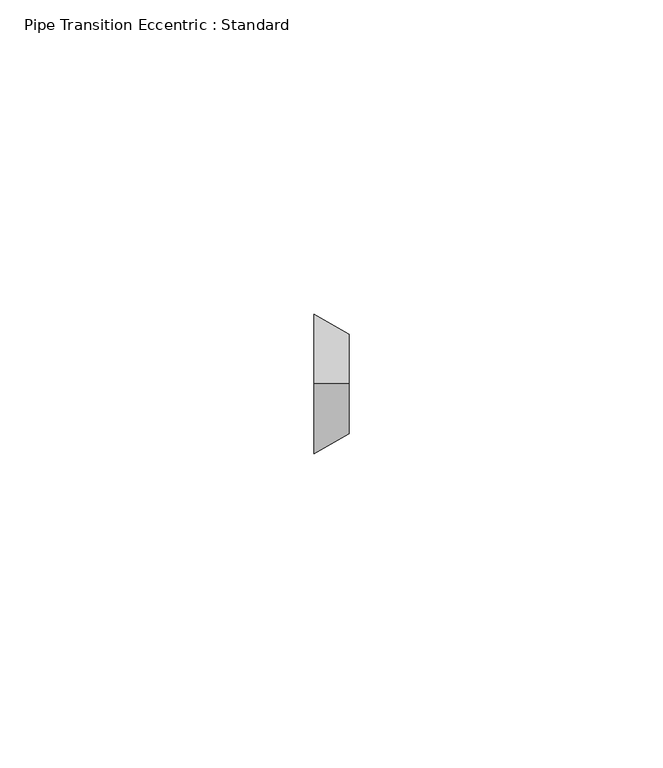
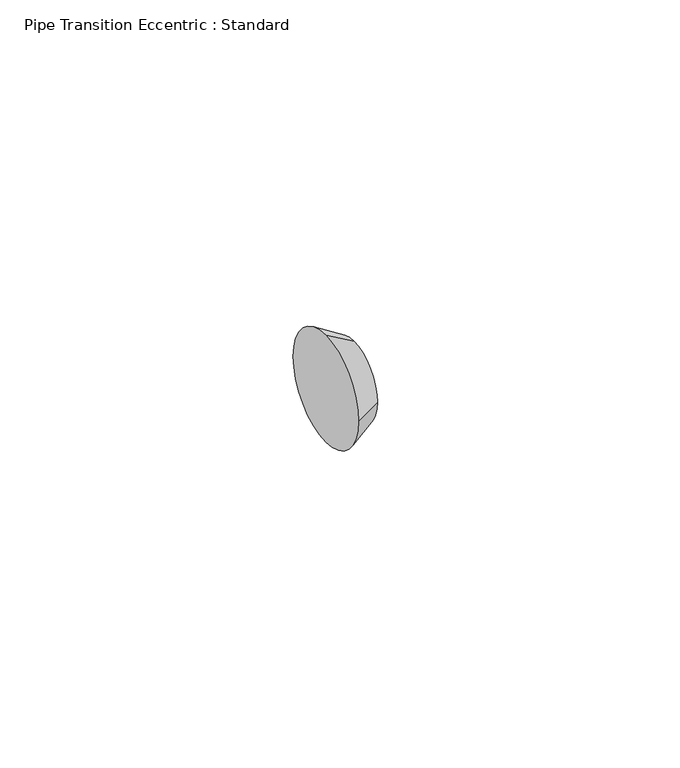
"""IFC4 building model written with IfcOpenShell, lengths in millimetres: pipe fitting geometry, Pipe Transition Eccentric : Standard."""

from ifc_helpers import new_model, si_unit, frame, origin, place, context, project, spatial, polyline, circle_curve, source, transform, mapped, element, save
from ifc_brep_helpers import plane_surface, revolved_surface, advanced_brep


def pipe_transition_eccentric_standard_c40806be(model_context):
    return source(origin(), model_context, "Body", "AdvancedBrep", [
        advanced_brep(
        [(5.55625, 0.0, 7.9375), (5.55625, -7.9375, 0.0), (5.55625, 0.0, -7.9375), (5.55625, 7.9375, 0.0), (0.0, 0.0, 11.1125), (0.0, 11.1125, 0.0), (0.0, 0.0, -11.1125), (0.0, -11.1125, 0.0)],
        [
            (0, 1, circle_curve(frame((5.55625, 0.0, 0.0), z_axis=(1.0, 0.0, 0.0), x_axis=(0.0, 0.0, 1.0)), 7.9375)),
            (1, 2, circle_curve(frame((5.55625, 0.0, 0.0), z_axis=(1.0, 0.0, 0.0), x_axis=(0.0, -1.0, 0.0)), 7.9375)),
            (2, 3, circle_curve(frame((5.55625, 0.0, 0.0), z_axis=(1.0, 0.0, 0.0), x_axis=(0.0, 0.0, -1.0)), 7.9375)),
            (3, 0, circle_curve(frame((5.55625, 0.0, 0.0), z_axis=(1.0, 0.0, 0.0), x_axis=(0.0, 1.0, 0.0)), 7.9375)),
            (4, 5, circle_curve(frame((0.0, 0.0, 0.0), z_axis=(-1.0, 0.0, 0.0), x_axis=(0.0, 1.0, 0.0)), 11.1125)),
            (5, 6, circle_curve(frame((0.0, 0.0, 0.0), z_axis=(-1.0, 0.0, 0.0), x_axis=(0.0, 0.0, -1.0)), 11.1125)),
            (6, 7, circle_curve(frame((0.0, 0.0, 0.0), z_axis=(-1.0, 0.0, 0.0), x_axis=(0.0, -1.0, 0.0)), 11.1125)),
            (7, 4, circle_curve(frame((0.0, 0.0, 0.0), z_axis=(-1.0, 0.0, 0.0), x_axis=(0.0, 0.0, 1.0)), 11.1125)),
            (7, 1),
            (0, 4),
            (6, 2),
            (5, 3),
        ],
        [
            plane_surface(frame((5.55625, 0.0, 0.0), z_axis=(1.0, 0.0, 0.0), x_axis=(0.0, -1.0, 0.0))),
            plane_surface(frame((0.0, 0.0, 0.0), z_axis=(-1.0, 0.0, 0.0), x_axis=(0.0, -1.0, 0.0))),
            revolved_surface(polyline([(5.556249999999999, 0.0, 7.937500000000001), (0.0, 0.0, 11.1125)]), (19.446875, 0.0, 0.0), (-1.0, 0.0, 0.0)),
            revolved_surface(polyline([(5.556249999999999, -7.937500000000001, 0.0), (0.0, -11.1125, 0.0)]), (19.446875, 0.0, 0.0), (-1.0, 0.0, 0.0)),
            revolved_surface(polyline([(5.556249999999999, 0.0, -7.937500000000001), (0.0, 0.0, -11.1125)]), (19.446875, 0.0, 0.0), (-1.0, 0.0, 0.0)),
            revolved_surface(polyline([(5.556249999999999, 7.937500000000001, 0.0), (0.0, 11.1125, 0.0)]), (19.446875, 0.0, 0.0), (-1.0, 0.0, 0.0)),
        ],
        [
            (0, [[1, 2, 3, 4]]),
            (1, [[5, 6, 7, 8]]),
            (2, [[-8, 9, -1, 10]]),
            (3, [[-7, 11, -2, -9]]),
            (4, [[-6, 12, -3, -11]]),
            (5, [[-5, -10, -4, -12]]),
        ],
    ),
        advanced_brep(
        [(5.55625, 0.0, 7.9375), (5.55625, -7.9375, 0.0), (5.55625, 0.0, -7.9375), (5.55625, 7.9375, 0.0), (0.0, 0.0, 11.1125), (0.0, 11.1125, 0.0), (0.0, 0.0, -11.1125), (0.0, -11.1125, 0.0)],
        [
            (0, 1, circle_curve(frame((5.55625, 0.0, 0.0), z_axis=(1.0, 0.0, -1.561712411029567e-12), x_axis=(1.5617090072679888e-12, 0.0, 1.0)), 7.9375)),
            (1, 2, circle_curve(frame((5.55625, 0.0, 0.0), z_axis=(1.0, 0.0, -1.5008087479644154e-12), x_axis=(0.0, -1.0, 0.0)), 7.9375)),
            (2, 3, circle_curve(frame((5.55625, 0.0, 0.0), z_axis=(1.0, 0.0, -2.4025932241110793e-12), x_axis=(-2.4026464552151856e-12, 0.0, -1.0)), 7.9375)),
            (3, 0, circle_curve(frame((5.55625, 0.0, 0.0), z_axis=(1.0, 0.0, 0.0), x_axis=(0.0, 1.0, 0.0)), 7.9375)),
            (4, 5, circle_curve(frame((0.0, 0.0, 0.0), z_axis=(-1.0, 0.0, 0.0), x_axis=(0.0, 1.0, 0.0)), 11.1125)),
            (5, 6, circle_curve(frame((0.0, 0.0, 0.0), z_axis=(-1.0, 0.0, 2.4025932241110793e-12), x_axis=(-2.4026464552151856e-12, 0.0, -1.0)), 11.1125)),
            (6, 7, circle_curve(frame((0.0, 0.0, 0.0), z_axis=(-1.0, 0.0, 1.5008087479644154e-12), x_axis=(0.0, -1.0, 0.0)), 11.1125)),
            (7, 4, circle_curve(frame((0.0, 0.0, 0.0), z_axis=(-1.0, 0.0, 1.561712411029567e-12), x_axis=(1.5617090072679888e-12, 0.0, 1.0)), 11.1125)),
            (7, 1),
            (0, 4),
            (6, 2),
            (5, 3),
        ],
        [
            plane_surface(frame((5.55625, 0.0, 0.0), z_axis=(1.0, 0.0, 0.0), x_axis=(0.0, -1.0, 0.0))),
            plane_surface(frame((0.0, 0.0, 0.0), z_axis=(-1.0, 0.0, 0.0), x_axis=(0.0, -1.0, 0.0))),
            revolved_surface(polyline([(5.556250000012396, 0.0, 7.937499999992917), (0.0, 0.0, 11.1125)]), (19.446875, 0.0, 0.0), (-1.0, 0.0, 1.561712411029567e-12)),
            revolved_surface(polyline([(5.556250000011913, -7.937499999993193, 0.0), (0.0, -11.1125, 0.0)]), (19.446875, 0.0, 0.0), (-1.0, 0.0, 1.5008087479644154e-12)),
            revolved_surface(polyline([(5.556250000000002, 0.0, -7.937499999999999), (-2.6698643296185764e-11, 0.0, -11.112500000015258)]), (19.446875, 0.0, 0.0), (-1.0, 0.0, 2.4025932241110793e-12)),
            revolved_surface(polyline([(5.556249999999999, 7.937500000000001, 0.0), (0.0, 11.1125, 0.0)]), (19.446875, 0.0, 0.0), (-1.0, 0.0, 0.0)),
        ],
        [
            (0, [[1, 2, 3, 4]]),
            (1, [[5, 6, 7, 8]]),
            (2, [[-8, 9, -1, 10]]),
            (3, [[-7, 11, -2, -9]]),
            (4, [[-6, 12, -3, -11]]),
            (5, [[-5, -10, -4, -12]]),
        ],
    ),
    ])


if __name__ == "__main__":
    model = new_model("IFC4")
    model_context = context("Model", 3, world=origin())
    ifc_project = project(units=[si_unit("LENGTHUNIT", "METRE", prefix="MILLI")], contexts=[model_context])
    site = spatial("IfcSite", under=ifc_project)
    building = spatial("IfcBuilding", under=site)
    placement = place(None, origin())
    pipe_transition_eccentric_standard_shape = pipe_transition_eccentric_standard_c40806be(model_context)
    element("IfcPipeFitting", 1, ObjectType="Pipe Transition Eccentric : Standard", at=placement, inside=building, context=model_context, shape_type="MappedRepresentation", body=[
        mapped(pipe_transition_eccentric_standard_shape, transform((0.0, 0.0, 0.0), x_axis=(1.0, 0.0, 0.0), y_axis=(0.0, 1.0, 0.0), z_axis=(0.0, 0.0, 1.0))),
    ])
    save(model, "model.ifc")
